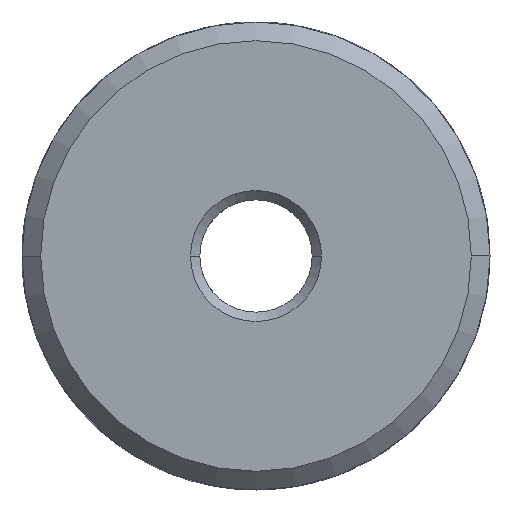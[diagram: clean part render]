
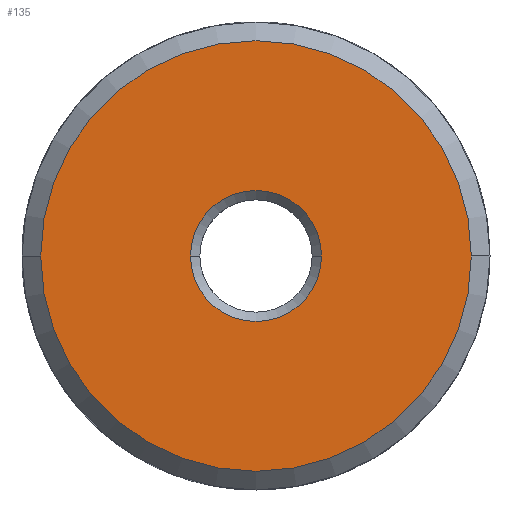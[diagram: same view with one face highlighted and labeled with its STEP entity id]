
A CAD part, left-side view. The second image highlights one B-rep face of the part: STEP entity #135.
In plain terms, the highlighted planar face has unit normal (-1, 0, 0).
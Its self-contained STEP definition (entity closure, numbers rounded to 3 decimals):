
#135 = ADVANCED_FACE( '', ( #272, #273 ), #274, .T. );
#272 = FACE_BOUND( '', #410, .T. );
#273 = FACE_OUTER_BOUND( '', #411, .T. );
#274 = PLANE( '', #412 );
#410 = EDGE_LOOP( '', ( #957, #958 ) );
#411 = EDGE_LOOP( '', ( #959, #960 ) );
#412 = AXIS2_PLACEMENT_3D( '', #961, #962, #963 );
#957 = ORIENTED_EDGE( '', *, *, #1142, .F. );
#958 = ORIENTED_EDGE( '', *, *, #987, .F. );
#959 = ORIENTED_EDGE( '', *, *, #967, .T. );
#960 = ORIENTED_EDGE( '', *, *, #1147, .T. );
#961 = CARTESIAN_POINT( '', ( 0., 7.5, 0. ) );
#962 = DIRECTION( '', ( -1., 0., 0. ) );
#963 = DIRECTION( '', ( 0., 1., 0. ) );
#967 = EDGE_CURVE( '', #1149, #1153, #1155, .T. );
#987 = EDGE_CURVE( '', #1192, #1190, #1194, .T. );
#1142 = EDGE_CURVE( '', #1190, #1192, #1445, .T. );
#1147 = EDGE_CURVE( '', #1153, #1149, #1450, .T. );
#1149 = VERTEX_POINT( '', #1452 );
#1153 = VERTEX_POINT( '', #1457 );
#1155 = CIRCLE( '', #1460, 11.5 );
#1190 = VERTEX_POINT( '', #1590 );
#1192 = VERTEX_POINT( '', #1593 );
#1194 = CIRCLE( '', #1596, 3.5 );
#1445 = CIRCLE( '', #2341, 3.5 );
#1450 = CIRCLE( '', #2346, 11.5 );
#1452 = CARTESIAN_POINT( '', ( 0., 11.5, 0. ) );
#1457 = CARTESIAN_POINT( '', ( 0., -11.5, 0. ) );
#1460 = AXIS2_PLACEMENT_3D( '', #2352, #2353, #2354 );
#1590 = CARTESIAN_POINT( '', ( 0., 3.5, 0. ) );
#1593 = CARTESIAN_POINT( '', ( 0., -3.5, 0. ) );
#1596 = AXIS2_PLACEMENT_3D( '', #2382, #2383, #2384 );
#2341 = AXIS2_PLACEMENT_3D( '', #2675, #2676, #2677 );
#2346 = AXIS2_PLACEMENT_3D( '', #2690, #2691, #2692 );
#2352 = CARTESIAN_POINT( '', ( 0., 0., 0. ) );
#2353 = DIRECTION( '', ( -1., 0., 0. ) );
#2354 = DIRECTION( '', ( 0., 1., 0. ) );
#2382 = CARTESIAN_POINT( '', ( 0., 0., 0. ) );
#2383 = DIRECTION( '', ( -1., 0., 0. ) );
#2384 = DIRECTION( '', ( 0., 1., 0. ) );
#2675 = CARTESIAN_POINT( '', ( 0., 0., 0. ) );
#2676 = DIRECTION( '', ( -1., 0., 0. ) );
#2677 = DIRECTION( '', ( 0., 1., 0. ) );
#2690 = CARTESIAN_POINT( '', ( 0., 0., 0. ) );
#2691 = DIRECTION( '', ( -1., 0., 0. ) );
#2692 = DIRECTION( '', ( 0., 1., 0. ) );
